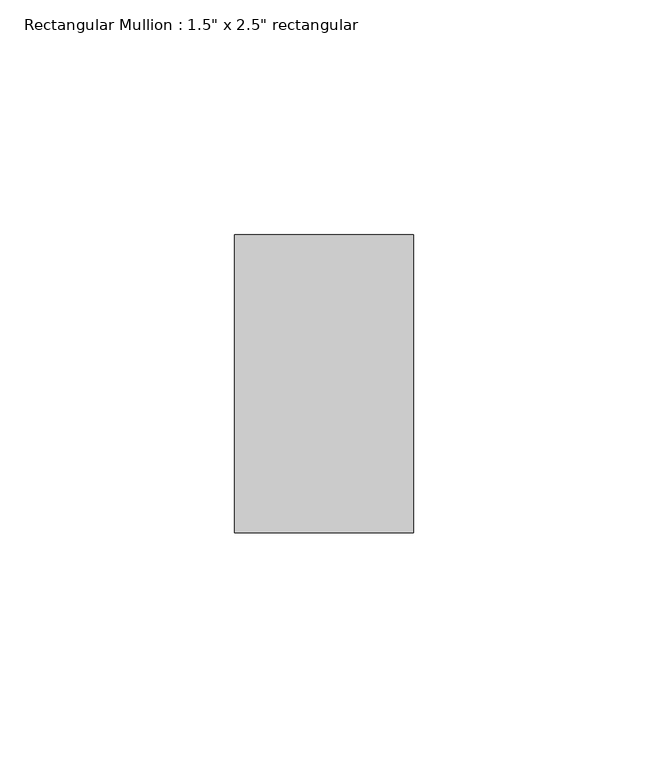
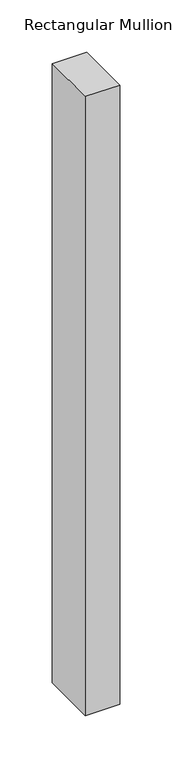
"""IFC4 building model written with IfcOpenShell, lengths in millimetres: member geometry."""

from ifc_helpers import new_model, si_unit, frame, origin, place, context, project, spatial, polyline, outline, extrude, source, transform, mapped, element, save


def member_49f7380d(model_context):
    return source(origin(), model_context, "Body", "SweptSolid", [
        extrude(outline(polyline([(19.05, 31.75), (19.05, -31.75), (-19.05, -31.75), (-19.05, 31.75), (19.05, 31.75)])), frame((0.0, 0.0, -724.9037505), z_axis=(0.0, 0.0, 1.0), x_axis=(1.0, 0.0, 0.0)), (0.0, 0.0, 1.0), 724.9037505),
    ])


if __name__ == "__main__":
    model = new_model("IFC4")
    model_context = context("Model", 3, world=origin())
    ifc_project = project(units=[si_unit("LENGTHUNIT", "METRE", prefix="MILLI")], contexts=[model_context])
    site = spatial("IfcSite", under=ifc_project)
    building = spatial("IfcBuilding", under=site)
    placement = place(None, origin())
    member_shape = member_49f7380d(model_context)
    element("IfcMember", 1, ObjectType="Rectangular Mullion : 1.5\" x 2.5\" rectangular", at=placement, inside=building, context=model_context, shape_type="MappedRepresentation", body=[
        mapped(member_shape, transform((0.0, 0.0, 0.0), x_axis=(1.0, 0.0, 0.0), y_axis=(0.0, 1.0, 0.0), z_axis=(0.0, 0.0, 1.0))),
    ])
    save(model, "model.ifc")
